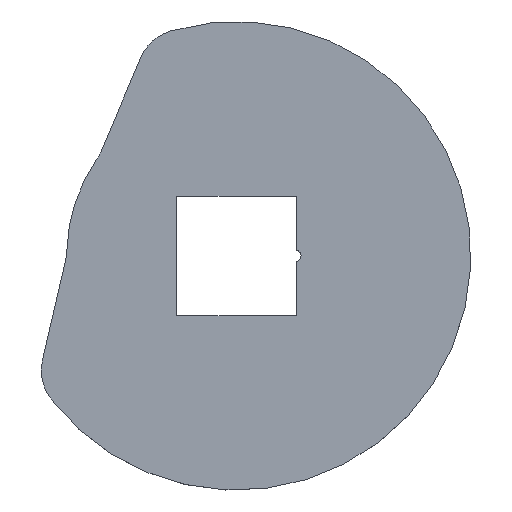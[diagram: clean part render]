
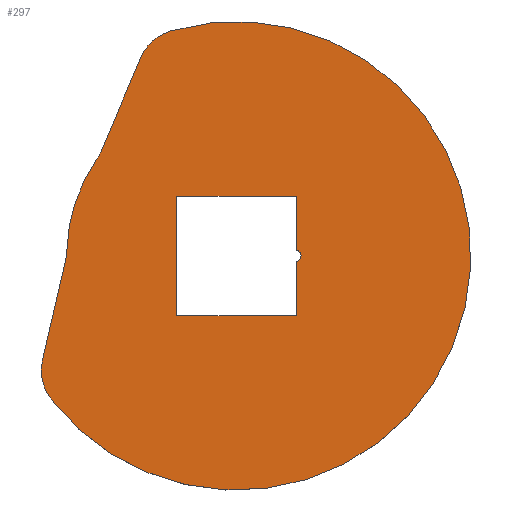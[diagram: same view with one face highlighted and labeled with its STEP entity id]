
A CAD part, top view. The second image highlights one B-rep face of the part: STEP entity #297.
In plain terms, the highlighted planar face has unit normal (0, 0, 1).
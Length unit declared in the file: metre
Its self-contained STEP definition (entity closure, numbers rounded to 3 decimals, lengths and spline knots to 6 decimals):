
#13=CIRCLE('',#320,0.004);
#15=CIRCLE('',#323,0.0145);
#17=CIRCLE('',#326,0.004);
#19=CIRCLE('',#330,0.004);
#21=CIRCLE('',#333,0.02);
#23=CIRCLE('',#336,0.004);
#24=CIRCLE('',#339,0.0005);
#69=ORIENTED_EDGE('',*,*,#145,.F.);
#70=ORIENTED_EDGE('',*,*,#120,.T.);
#71=ORIENTED_EDGE('',*,*,#146,.F.);
#72=ORIENTED_EDGE('',*,*,#147,.F.);
#73=ORIENTED_EDGE('',*,*,#148,.T.);
#74=ORIENTED_EDGE('',*,*,#149,.T.);
#75=ORIENTED_EDGE('',*,*,#123,.F.);
#76=ORIENTED_EDGE('',*,*,#127,.T.);
#77=ORIENTED_EDGE('',*,*,#130,.F.);
#78=ORIENTED_EDGE('',*,*,#133,.F.);
#79=ORIENTED_EDGE('',*,*,#136,.T.);
#80=ORIENTED_EDGE('',*,*,#139,.T.);
#81=ORIENTED_EDGE('',*,*,#142,.T.);
#82=ORIENTED_EDGE('',*,*,#144,.F.);
#120=EDGE_CURVE('',#160,#162,#190,.T.);
#123=EDGE_CURVE('',#165,#166,#13,.T.);
#127=EDGE_CURVE('',#165,#168,#15,.T.);
#130=EDGE_CURVE('',#170,#168,#17,.T.);
#133=EDGE_CURVE('',#172,#170,#197,.T.);
#136=EDGE_CURVE('',#172,#174,#19,.T.);
#139=EDGE_CURVE('',#174,#176,#21,.T.);
#142=EDGE_CURVE('',#176,#178,#23,.T.);
#144=EDGE_CURVE('',#166,#178,#202,.T.);
#145=EDGE_CURVE('',#160,#179,#24,.T.);
#146=EDGE_CURVE('',#180,#162,#203,.T.);
#147=EDGE_CURVE('',#181,#180,#204,.T.);
#148=EDGE_CURVE('',#181,#182,#205,.T.);
#149=EDGE_CURVE('',#182,#179,#206,.T.);
#160=VERTEX_POINT('',#441);
#162=VERTEX_POINT('',#445);
#165=VERTEX_POINT('',#452);
#166=VERTEX_POINT('',#454);
#168=VERTEX_POINT('',#460);
#170=VERTEX_POINT('',#466);
#172=VERTEX_POINT('',#472);
#174=VERTEX_POINT('',#478);
#176=VERTEX_POINT('',#484);
#178=VERTEX_POINT('',#490);
#179=VERTEX_POINT('',#497);
#180=VERTEX_POINT('',#499);
#181=VERTEX_POINT('',#501);
#182=VERTEX_POINT('',#503);
#190=LINE('',#446,#218);
#197=LINE('',#473,#225);
#202=LINE('',#494,#230);
#203=LINE('',#498,#231);
#204=LINE('',#500,#232);
#205=LINE('',#502,#233);
#206=LINE('',#504,#234);
#218=VECTOR('',#354,1.);
#225=VECTOR('',#381,1.);
#230=VECTOR('',#406,1.);
#231=VECTOR('',#411,1.);
#232=VECTOR('',#412,1.);
#233=VECTOR('',#413,1.);
#234=VECTOR('',#414,1.);
#252=EDGE_LOOP('',(#69,#70,#71,#72,#73,#74));
#253=EDGE_LOOP('',(#75,#76,#77,#78,#79,#80,#81,#82));
#270=FACE_BOUND('',#252,.T.);
#271=FACE_BOUND('',#253,.T.);
#282=PLANE('',#338);
#297=ADVANCED_FACE('',(#270,#271),#282,.T.);
#320=AXIS2_PLACEMENT_3D('',#453,#360,#361);
#323=AXIS2_PLACEMENT_3D('',#461,#368,#369);
#326=AXIS2_PLACEMENT_3D('',#467,#375,#376);
#330=AXIS2_PLACEMENT_3D('',#479,#387,#388);
#333=AXIS2_PLACEMENT_3D('',#485,#394,#395);
#336=AXIS2_PLACEMENT_3D('',#491,#401,#402);
#338=AXIS2_PLACEMENT_3D('',#495,#407,#408);
#339=AXIS2_PLACEMENT_3D('',#496,#409,#410);
#354=DIRECTION('',(0.,-1.,0.));
#360=DIRECTION('',(0.,0.,1.));
#361=DIRECTION('',(1.,0.,0.));
#368=DIRECTION('',(0.,0.,1.));
#369=DIRECTION('',(1.,0.,0.));
#375=DIRECTION('',(0.,0.,1.));
#376=DIRECTION('',(1.,0.,0.));
#381=DIRECTION('',(0.226,0.974,0.));
#387=DIRECTION('',(0.,0.,1.));
#388=DIRECTION('',(1.,0.,0.));
#394=DIRECTION('',(0.,0.,1.));
#395=DIRECTION('',(1.,0.,0.));
#401=DIRECTION('',(0.,0.,1.));
#402=DIRECTION('',(1.,0.,0.));
#406=DIRECTION('',(0.39,0.921,0.));
#407=DIRECTION('',(0.,0.,1.));
#408=DIRECTION('',(1.,0.,0.));
#409=DIRECTION('',(0.,0.,1.));
#410=DIRECTION('',(1.,0.,0.));
#411=DIRECTION('',(1.,0.,0.));
#412=DIRECTION('',(0.,-1.,0.));
#413=DIRECTION('',(1.,0.,0.));
#414=DIRECTION('',(0.,-1.,0.));
#441=CARTESIAN_POINT('',(0.0051,-0.00049,0.023128));
#445=CARTESIAN_POINT('',(0.0051,-0.0051,0.023128));
#446=CARTESIAN_POINT('',(0.0051,0.,0.023128));
#452=CARTESIAN_POINT('',(-0.01195,0.008212,0.023128));
#453=CARTESIAN_POINT('',(-0.015247,0.010477,0.023128));
#454=CARTESIAN_POINT('',(-0.011563,0.008919,0.023128));
#460=CARTESIAN_POINT('',(-0.014495,0.000381,0.023128));
#461=CARTESIAN_POINT('',(0.,0.,0.023128));
#466=CARTESIAN_POINT('',(-0.014597,-0.000419,0.023128));
#467=CARTESIAN_POINT('',(-0.018494,0.000486,0.023128));
#472=CARTESIAN_POINT('',(-0.016561,-0.008874,0.023128));
#473=CARTESIAN_POINT('',(-0.015579,-0.004646,0.023128));
#478=CARTESIAN_POINT('',(-0.01583,-0.012223,0.023128));
#479=CARTESIAN_POINT('',(-0.012664,-0.009778,0.023128));
#484=CARTESIAN_POINT('',(-0.005622,0.019193,0.023128));
#485=CARTESIAN_POINT('',(0.,0.,0.023128));
#490=CARTESIAN_POINT('',(-0.008182,0.016913,0.023128));
#491=CARTESIAN_POINT('',(-0.004498,0.015355,0.023128));
#494=CARTESIAN_POINT('',(-0.009873,0.012916,0.023128));
#495=CARTESIAN_POINT('',(0.,0.,0.023128));
#496=CARTESIAN_POINT('',(0.005,0.,0.023128));
#497=CARTESIAN_POINT('',(0.0051,0.00049,0.023128));
#498=CARTESIAN_POINT('',(0.,-0.0051,0.023128));
#499=CARTESIAN_POINT('',(-0.0051,-0.0051,0.023128));
#500=CARTESIAN_POINT('',(-0.0051,0.,0.023128));
#501=CARTESIAN_POINT('',(-0.0051,0.0051,0.023128));
#502=CARTESIAN_POINT('',(0.,0.0051,0.023128));
#503=CARTESIAN_POINT('',(0.0051,0.0051,0.023128));
#504=CARTESIAN_POINT('',(0.0051,0.,0.023128));
